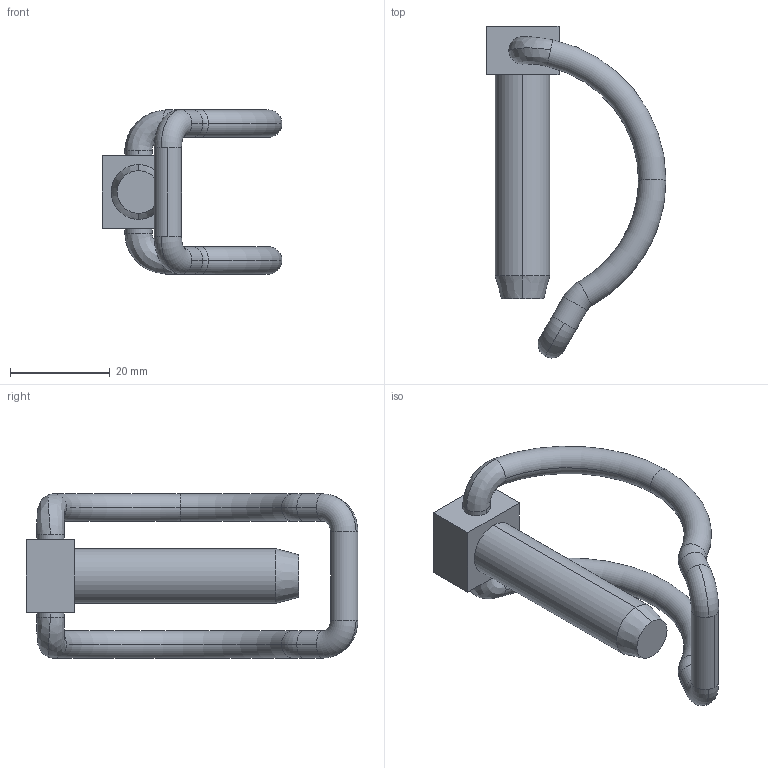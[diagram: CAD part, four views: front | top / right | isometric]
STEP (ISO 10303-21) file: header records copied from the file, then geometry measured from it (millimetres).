
FILE_DESCRIPTION (( 'STEP AP203' ), '1' );
FILE_NAME ('33320.W0111.step', '2025-02-04T13:41:36', ( '' ), ( '' ), 'SwSTEP 2.0', 'SolidWorks 2019', '' );
FILE_SCHEMA (( 'CONFIG_CONTROL_DESIGN' ));
Length unit declared in the file: millimetre
Products named in the file (3): Part5_33320.W0111; part1_33320.W0111; 33320.W0111
Assembly tree (2 placements, depth 2):
  33320.W0111
    part1_33320.W0111
    Part5_33320.W0111
Bounding box: 36.16 x 66.69 x 33 mm (x, y, z)
Volume: 10756.6 mm3; surface area: 6263.7 mm2
Topology: 2 solids, 2 shells, 43 faces, 100 edges, 62 vertices
Faces by surface type: cylinder 14, torus 14, plane 9, bspline 4, cone 2
Entity records: 1847 total; most frequent: CARTESIAN_POINT 522, DIRECTION 252, ORIENTED_EDGE 200, AXIS2_PLACEMENT_3D 112, EDGE_CURVE 100, CIRCLE 68, VERTEX_POINT 62, EDGE_LOOP 46
